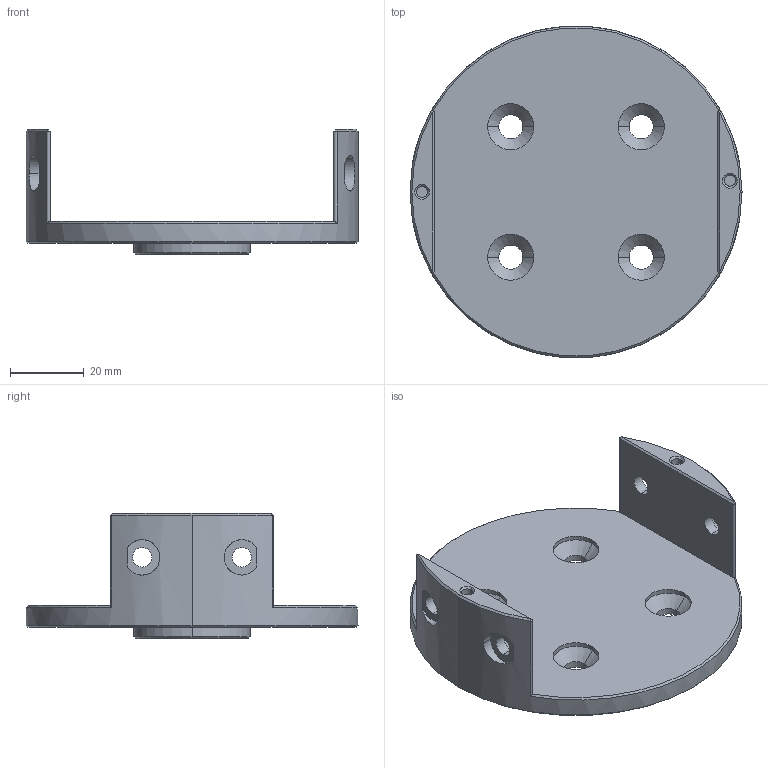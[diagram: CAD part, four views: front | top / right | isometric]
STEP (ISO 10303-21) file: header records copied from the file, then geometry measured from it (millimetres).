
FILE_DESCRIPTION (( 'STEP AP203' ), '1' );
FILE_NAME ('楊擘-PGC300.STEP', '2023-09-23T04:17:00', ( '' ), ( '' ), 'SwSTEP 2.0', 'SolidWorks 2020', '' );
FILE_SCHEMA (( 'CONFIG_CONTROL_DESIGN' ));
Length unit declared in the file: millimetre
Products named in the file (1): 楊擘-PGC300
Bounding box: 90 x 90 x 33.9 mm (x, y, z)
Volume: 46564.5 mm3; surface area: 19804.5 mm2
Topology: 1 solids, 1 shells, 94 faces, 212 edges, 125 vertices
Faces by surface type: cylinder 46, cone 27, plane 21
Entity records: 2956 total; most frequent: CARTESIAN_POINT 706, DIRECTION 493, ORIENTED_EDGE 416, EDGE_CURVE 208, AXIS2_PLACEMENT_3D 200, VERTEX_POINT 125, EDGE_LOOP 119, CIRCLE 105
